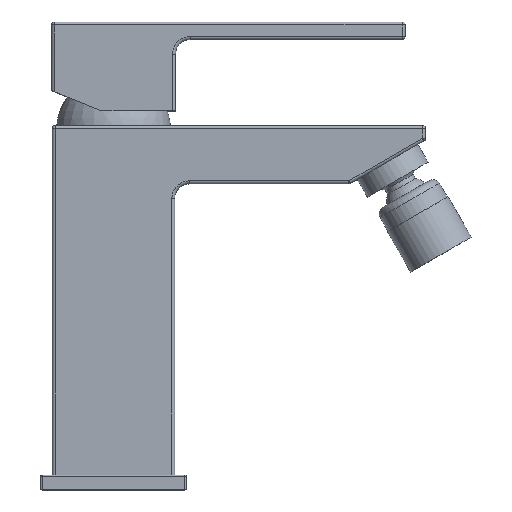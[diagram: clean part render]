
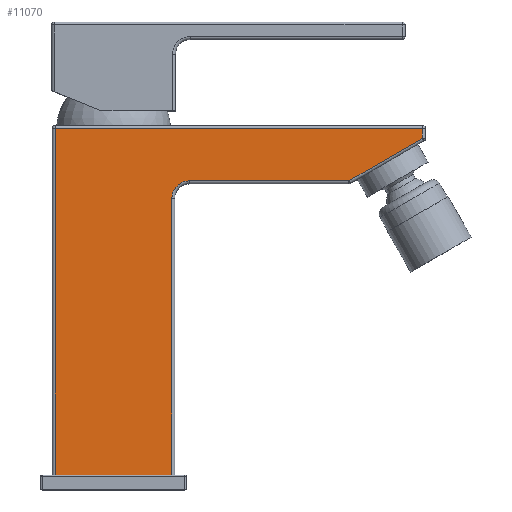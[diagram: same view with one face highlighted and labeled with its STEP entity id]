
A CAD part, top view. The second image highlights one B-rep face of the part: STEP entity #11070.
In plain terms, the highlighted planar face has unit normal (0, 0, 1).
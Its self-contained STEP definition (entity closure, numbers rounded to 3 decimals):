
#2240=CARTESIAN_POINT('',(106.,115.577,21.));
#2250=VERTEX_POINT('',#2240);
#2280=CARTESIAN_POINT('',(106.,0.,21.));
#2290=DIRECTION('',(0.,-1.,0.));
#2300=VECTOR('',#2290,1.);
#2310=LINE('',#2280,#2300);
#2320=CARTESIAN_POINT('',(106.,119.,21.));
#2330=VERTEX_POINT('',#2320);
#2340=EDGE_CURVE('',#2330,#2250,#2310,.T.);
#2560=CARTESIAN_POINT('',(20.,95.,21.));
#2570=VERTEX_POINT('',#2560);
#2750=CARTESIAN_POINT('',(20.,0.,21.));
#2760=VERTEX_POINT('',#2750);
#2790=CARTESIAN_POINT('',(20.,0.,21.));
#2800=DIRECTION('',(0.,1.,0.));
#2810=VECTOR('',#2800,1.);
#2820=LINE('',#2790,#2810);
#2830=EDGE_CURVE('',#2760,#2570,#2820,.T.);
#4240=CARTESIAN_POINT('',(-20.,0.,21.));
#4250=VERTEX_POINT('',#4240);
#4340=CARTESIAN_POINT('',(-20.,119.,21.));
#4350=VERTEX_POINT('',#4340);
#4380=CARTESIAN_POINT('',(-20.,0.,21.));
#4390=DIRECTION('',(0.,1.,0.));
#4400=VECTOR('',#4390,1.);
#4410=LINE('',#4380,#4400);
#4420=EDGE_CURVE('',#4250,#4350,#4410,.T.);
#10620=CARTESIAN_POINT('',(0.,0.,21.));
#10630=DIRECTION('',(0.,0.,1.));
#10640=DIRECTION('',(1.,0.,0.));
#10650=AXIS2_PLACEMENT_3D('',#10620,#10630,#10640);
#10660=PLANE('',#10650);
#10670=ORIENTED_EDGE('',*,*,#2340,.F.);
#10680=CARTESIAN_POINT('',(0.,54.378,21.));
#10690=DIRECTION('',(-0.866,-0.5,0.));
#10700=VECTOR('',#10690,1.);
#10710=LINE('',#10680,#10700);
#10720=CARTESIAN_POINT('',(80.751,101.,21.));
#10730=VERTEX_POINT('',#10720);
#10740=EDGE_CURVE('',#2250,#10730,#10710,.T.);
#10750=ORIENTED_EDGE('',*,*,#10740,.F.);
#10760=CARTESIAN_POINT('',(0.,101.,21.));
#10770=DIRECTION('',(1.,0.,0.));
#10780=VECTOR('',#10770,1.);
#10790=LINE('',#10760,#10780);
#10800=CARTESIAN_POINT('',(26.,101.,21.));
#10810=VERTEX_POINT('',#10800);
#10820=EDGE_CURVE('',#10810,#10730,#10790,.T.);
#10830=ORIENTED_EDGE('',*,*,#10820,.T.);
#10840=CARTESIAN_POINT('',(26.,95.,21.));
#10850=DIRECTION('',(0.,0.,-1.));
#10860=DIRECTION('',(-1.,0.,0.));
#10870=AXIS2_PLACEMENT_3D('',#10840,#10850,#10860);
#10880=CIRCLE('',#10870,6.);
#10890=EDGE_CURVE('',#2570,#10810,#10880,.T.);
#10900=ORIENTED_EDGE('',*,*,#10890,.T.);
#10910=ORIENTED_EDGE('',*,*,#2830,.T.);
#10920=CARTESIAN_POINT('',(0.,0.,21.));
#10930=DIRECTION('',(-1.,0.,0.));
#10940=VECTOR('',#10930,1.);
#10950=LINE('',#10920,#10940);
#10960=EDGE_CURVE('',#2760,#4250,#10950,.T.);
#10970=ORIENTED_EDGE('',*,*,#10960,.F.);
#10980=ORIENTED_EDGE('',*,*,#4420,.F.);
#10990=CARTESIAN_POINT('',(0.,119.,21.));
#11000=DIRECTION('',(1.,0.,0.));
#11010=VECTOR('',#11000,1.);
#11020=LINE('',#10990,#11010);
#11030=EDGE_CURVE('',#4350,#2330,#11020,.T.);
#11040=ORIENTED_EDGE('',*,*,#11030,.F.);
#11050=EDGE_LOOP('',(#11040,#10980,#10970,#10910,#10900,#10830,#10750,
#10670));
#11060=FACE_OUTER_BOUND('',#11050,.T.);
#11070=ADVANCED_FACE('',(#11060),#10660,.T.);
